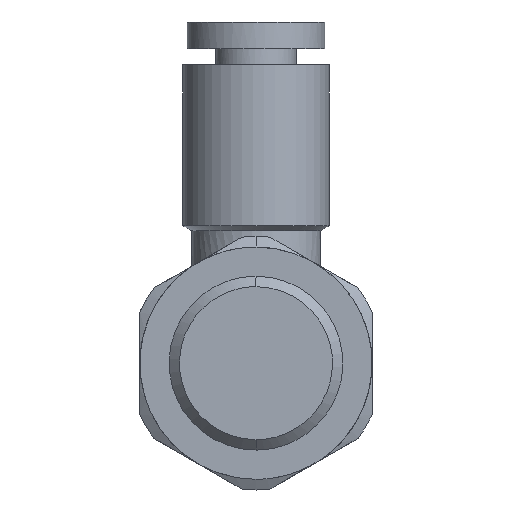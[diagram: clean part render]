
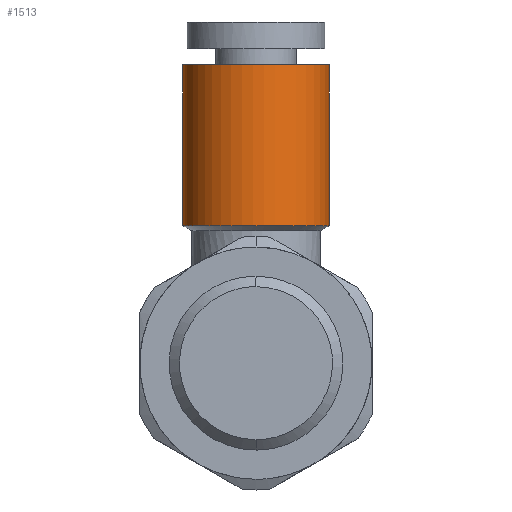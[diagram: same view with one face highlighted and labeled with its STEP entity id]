
A CAD part, front view. The second image highlights one B-rep face of the part: STEP entity #1513.
In plain terms, the highlighted free-form (B-spline) face has degree [1, 3] with [2, 4] control points.
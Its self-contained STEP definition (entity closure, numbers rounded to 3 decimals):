
#128 = B_SPLINE_CURVE_WITH_KNOTS ( 'NONE', 1,
 ( #1738, #1266 ),
 .UNSPECIFIED., .F., .F.,
 ( 2, 2 ),
 ( 0., 1. ),
 .UNSPECIFIED. ) ;
#358 = EDGE_LOOP ( 'NONE', ( #984, #2817, #833, #2122 ) ) ;
#595 = CARTESIAN_POINT ( 'NONE',  ( -4.1, 5.1, 7.7 ) ) ;
#603 = EDGE_CURVE ( 'NONE', #1722, #2734, #128, .T. ) ;
#628 = CARTESIAN_POINT ( 'NONE',  ( 4.1, 5.1, 16.7 ) ) ;
#698 = EDGE_CURVE ( 'NONE', #1722, #978, #1726, .T. ) ;
#784 = VERTEX_POINT ( 'NONE', #2356 ) ;
#828 = CARTESIAN_POINT ( 'NONE',  ( -4.1, 13.3, 7.7 ) ) ;
#833 = ORIENTED_EDGE ( 'NONE', *, *, #1848, .T. ) ;
#835 = CARTESIAN_POINT ( 'NONE',  ( 4.1, 5.1, 7.7 ) ) ;
#842 = CARTESIAN_POINT ( 'NONE',  ( -4.1, 5.1, 7.7 ) ) ;
#848 = CARTESIAN_POINT ( 'NONE',  ( 4.1, 13.3, 7.7 ) ) ;
#893 = CARTESIAN_POINT ( 'NONE',  ( 4.1, 13.3, 7.7 ) ) ;
#978 = VERTEX_POINT ( 'NONE', #828 ) ;
#984 = ORIENTED_EDGE ( 'NONE', *, *, #698, .F. ) ;
#1105 = CARTESIAN_POINT ( 'NONE',  ( -4.1, 13.3, 16.7 ) ) ;
#1213 =( BOUNDED_SURFACE ( )  B_SPLINE_SURFACE ( 1, 3, ( 
 ( #848, #835, #595, #1791 ),
 ( #2715, #628, #2485, #1804 ) ),
 .UNSPECIFIED., .F., .F., .T. ) 
 B_SPLINE_SURFACE_WITH_KNOTS ( ( 2, 2 ),
 ( 4, 4 ),
 ( 0., 1. ),
 ( 0., 1. ),
 .UNSPECIFIED. ) 
 GEOMETRIC_REPRESENTATION_ITEM ( )  RATIONAL_B_SPLINE_SURFACE ( (
 ( 1., 0.333, 0.333, 1.),
 ( 1., 0.333, 0.333, 1.) ) ) 
 REPRESENTATION_ITEM ( '' )  SURFACE ( )  );
#1266 = CARTESIAN_POINT ( 'NONE',  ( 4.1, 13.3, 16.7 ) ) ;
#1324 = CARTESIAN_POINT ( 'NONE',  ( 4.1, 13.3, 16.7 ) ) ;
#1336 = CARTESIAN_POINT ( 'NONE',  ( -4.1, 13.3, 16.7 ) ) ;
#1369 = CARTESIAN_POINT ( 'NONE',  ( -4.1, 5.1, 16.7 ) ) ;
#1513 = ADVANCED_FACE ( 'NONE', ( #1987 ), #1213, .T. ) ;
#1522 = CARTESIAN_POINT ( 'NONE',  ( 4.1, 13.3, 7.7 ) ) ;
#1722 = VERTEX_POINT ( 'NONE', #1522 ) ;
#1726 =( BOUNDED_CURVE ( )  B_SPLINE_CURVE ( 3, ( #893, #2738, #842, #2070 ),
 .UNSPECIFIED., .F., .T. ) 
 B_SPLINE_CURVE_WITH_KNOTS ( ( 4, 4 ),
 ( 0., 1. ),
 .UNSPECIFIED. ) 
 CURVE ( )  GEOMETRIC_REPRESENTATION_ITEM ( )  RATIONAL_B_SPLINE_CURVE ( ( 1., 0.333, 0.333, 1. ) ) 
 REPRESENTATION_ITEM ( '' )  );
#1738 = CARTESIAN_POINT ( 'NONE',  ( 4.1, 13.3, 7.7 ) ) ;
#1758 = CARTESIAN_POINT ( 'NONE',  ( -4.1, 13.3, 7.7 ) ) ;
#1791 = CARTESIAN_POINT ( 'NONE',  ( -4.1, 13.3, 7.7 ) ) ;
#1804 = CARTESIAN_POINT ( 'NONE',  ( -4.1, 13.3, 16.7 ) ) ;
#1848 = EDGE_CURVE ( 'NONE', #2734, #784, #2320, .T. ) ;
#1987 = FACE_OUTER_BOUND ( 'NONE', #358, .T. ) ;
#2070 = CARTESIAN_POINT ( 'NONE',  ( -4.1, 13.3, 7.7 ) ) ;
#2096 = EDGE_CURVE ( 'NONE', #978, #784, #2523, .T. ) ;
#2122 = ORIENTED_EDGE ( 'NONE', *, *, #2096, .F. ) ;
#2320 =( BOUNDED_CURVE ( )  B_SPLINE_CURVE ( 3, ( #1324, #2471, #1369, #1105 ),
 .UNSPECIFIED., .F., .T. ) 
 B_SPLINE_CURVE_WITH_KNOTS ( ( 4, 4 ),
 ( 0.5, 1. ),
 .UNSPECIFIED. ) 
 CURVE ( )  GEOMETRIC_REPRESENTATION_ITEM ( )  RATIONAL_B_SPLINE_CURVE ( ( 1., 0.333, 0.333, 1. ) ) 
 REPRESENTATION_ITEM ( '' )  );
#2356 = CARTESIAN_POINT ( 'NONE',  ( -4.1, 13.3, 16.7 ) ) ;
#2471 = CARTESIAN_POINT ( 'NONE',  ( 4.1, 5.1, 16.7 ) ) ;
#2485 = CARTESIAN_POINT ( 'NONE',  ( -4.1, 5.1, 16.7 ) ) ;
#2523 = B_SPLINE_CURVE_WITH_KNOTS ( 'NONE', 1,
 ( #1758, #1336 ),
 .UNSPECIFIED., .F., .F.,
 ( 2, 2 ),
 ( 0., 1. ),
 .UNSPECIFIED. ) ;
#2715 = CARTESIAN_POINT ( 'NONE',  ( 4.1, 13.3, 16.7 ) ) ;
#2734 = VERTEX_POINT ( 'NONE', #2989 ) ;
#2738 = CARTESIAN_POINT ( 'NONE',  ( 4.1, 5.1, 7.7 ) ) ;
#2817 = ORIENTED_EDGE ( 'NONE', *, *, #603, .T. ) ;
#2989 = CARTESIAN_POINT ( 'NONE',  ( 4.1, 13.3, 16.7 ) ) ;
